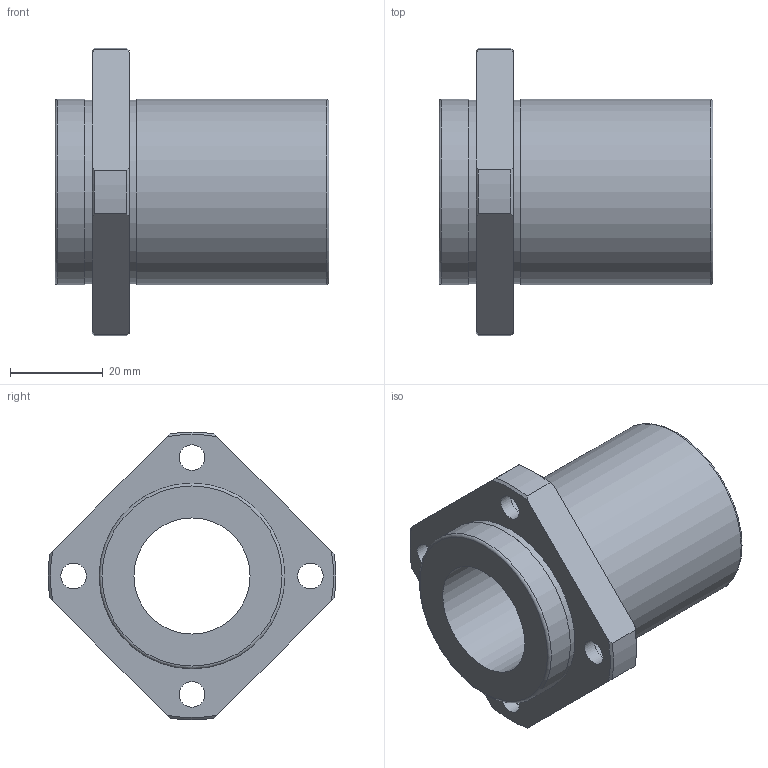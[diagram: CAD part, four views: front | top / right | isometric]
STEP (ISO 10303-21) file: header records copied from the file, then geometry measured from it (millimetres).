
FILE_DESCRIPTION(('STEP AP203'),'1');
FILE_NAME('//192.168.1.1/share/s-4 技術開発/s-4-4_CAD/s-4-4-3_見直し済み/002 修正済み/NFIS-V/NFIS-V_TOP/NFIS-25VUU.step','2022-03-08T02:22:58',(' '),(' '),'Spatial InterOp 3D',' ',' ');
FILE_SCHEMA(('CONFIG_CONTROL_DESIGN'));
Length unit declared in the file: millimetre
Products named in the file (1): 1
Bounding box: 59 x 61.92 x 61.92 mm (x, y, z)
Volume: 52785.4 mm3; surface area: 16994.7 mm2
Topology: 1 solids, 1 shells, 41 faces, 97 edges, 66 vertices
Faces by surface type: cylinder 17, plane 14, cone 8, torus 2
Full cylindrical faces by diameter (mm): 5.5 x4, 9 x4, 25 x1, 39.5 x2, 40 x2
Entity records: 1158 total; most frequent: CARTESIAN_POINT 226, DIRECTION 188, ORIENTED_EDGE 152, AXIS2_PLACEMENT_3D 86, EDGE_CURVE 76, EDGE_LOOP 74, VERTEX_POINT 60, FACE_OUTER_BOUND 56
